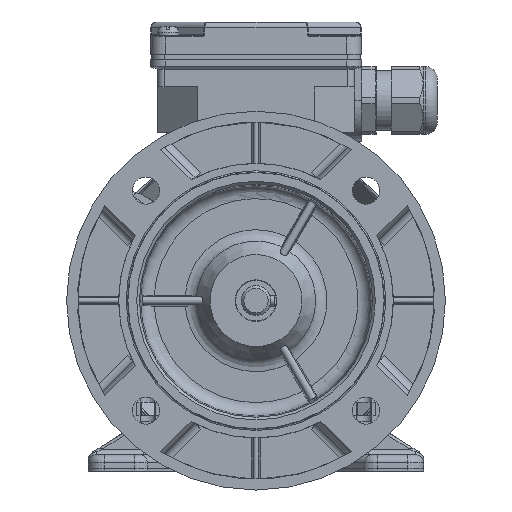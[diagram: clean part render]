
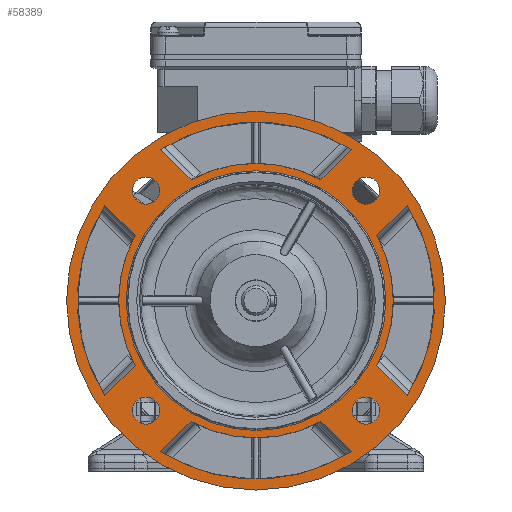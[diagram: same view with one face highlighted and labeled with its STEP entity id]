
A CAD part, left-side view. The second image highlights one B-rep face of the part: STEP entity #58389.
In plain terms, the highlighted planar face has unit normal (-1, 0, 0).
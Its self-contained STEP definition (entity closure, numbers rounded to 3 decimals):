
#3675=CIRCLE('',#61991,70.);
#3676=CIRCLE('',#61994,50.75);
#3677=CIRCLE('',#61997,66.);
#3678=CIRCLE('',#62000,50.75);
#3679=CIRCLE('',#62003,66.);
#3680=CIRCLE('',#62006,50.75);
#3681=CIRCLE('',#62009,66.);
#3682=CIRCLE('',#62012,66.);
#3683=CIRCLE('',#62015,50.75);
#3684=CIRCLE('',#62017,5.);
#3685=CIRCLE('',#62019,5.);
#3686=CIRCLE('',#62021,5.);
#3687=CIRCLE('',#62023,5.);
#3720=CIRCLE('',#62095,48.);
#13652=ORIENTED_EDGE('',*,*,#21418,.F.);
#13653=ORIENTED_EDGE('',*,*,#21417,.F.);
#13654=ORIENTED_EDGE('',*,*,#21416,.F.);
#13655=ORIENTED_EDGE('',*,*,#21415,.F.);
#13656=ORIENTED_EDGE('',*,*,#21414,.T.);
#13657=ORIENTED_EDGE('',*,*,#21413,.F.);
#13658=ORIENTED_EDGE('',*,*,#21410,.F.);
#13659=ORIENTED_EDGE('',*,*,#21409,.T.);
#13660=ORIENTED_EDGE('',*,*,#21406,.F.);
#13661=ORIENTED_EDGE('',*,*,#21405,.T.);
#13662=ORIENTED_EDGE('',*,*,#21402,.T.);
#13663=ORIENTED_EDGE('',*,*,#21400,.F.);
#13664=ORIENTED_EDGE('',*,*,#21398,.F.);
#13665=ORIENTED_EDGE('',*,*,#21397,.T.);
#13666=ORIENTED_EDGE('',*,*,#21394,.T.);
#13667=ORIENTED_EDGE('',*,*,#21392,.F.);
#13668=ORIENTED_EDGE('',*,*,#21390,.F.);
#13669=ORIENTED_EDGE('',*,*,#21389,.T.);
#13670=ORIENTED_EDGE('',*,*,#21386,.T.);
#13671=ORIENTED_EDGE('',*,*,#21384,.F.);
#13672=ORIENTED_EDGE('',*,*,#21382,.T.);
#13673=ORIENTED_EDGE('',*,*,#21498,.T.);
#21382=EDGE_CURVE('',#26058,#26058,#3675,.T.);
#21384=EDGE_CURVE('',#26059,#26060,#29927,.T.);
#21386=EDGE_CURVE('',#26061,#26060,#3676,.T.);
#21389=EDGE_CURVE('',#26062,#26061,#29928,.T.);
#21390=EDGE_CURVE('',#26062,#26059,#3677,.T.);
#21392=EDGE_CURVE('',#26063,#26064,#29929,.T.);
#21394=EDGE_CURVE('',#26065,#26064,#3678,.T.);
#21397=EDGE_CURVE('',#26066,#26065,#29930,.T.);
#21398=EDGE_CURVE('',#26066,#26063,#3679,.T.);
#21400=EDGE_CURVE('',#26067,#26068,#29931,.T.);
#21402=EDGE_CURVE('',#26069,#26068,#3680,.T.);
#21405=EDGE_CURVE('',#26070,#26069,#29932,.T.);
#21406=EDGE_CURVE('',#26070,#26067,#3681,.T.);
#21409=EDGE_CURVE('',#26071,#26072,#29933,.T.);
#21410=EDGE_CURVE('',#26071,#26073,#3682,.T.);
#21413=EDGE_CURVE('',#26073,#26074,#29934,.T.);
#21414=EDGE_CURVE('',#26072,#26074,#3683,.T.);
#21415=EDGE_CURVE('',#26075,#26075,#3684,.T.);
#21416=EDGE_CURVE('',#26076,#26076,#3685,.T.);
#21417=EDGE_CURVE('',#26077,#26077,#3686,.T.);
#21418=EDGE_CURVE('',#26078,#26078,#3687,.T.);
#21498=EDGE_CURVE('',#26141,#26141,#3720,.F.);
#26058=VERTEX_POINT('',#88461);
#26059=VERTEX_POINT('',#88467);
#26060=VERTEX_POINT('',#88469);
#26061=VERTEX_POINT('',#88476);
#26062=VERTEX_POINT('',#88486);
#26063=VERTEX_POINT('',#88495);
#26064=VERTEX_POINT('',#88497);
#26065=VERTEX_POINT('',#88504);
#26066=VERTEX_POINT('',#88514);
#26067=VERTEX_POINT('',#88523);
#26068=VERTEX_POINT('',#88525);
#26069=VERTEX_POINT('',#88532);
#26070=VERTEX_POINT('',#88542);
#26071=VERTEX_POINT('',#88551);
#26072=VERTEX_POINT('',#88556);
#26073=VERTEX_POINT('',#88560);
#26074=VERTEX_POINT('',#88570);
#26075=VERTEX_POINT('',#88576);
#26076=VERTEX_POINT('',#88579);
#26077=VERTEX_POINT('',#88582);
#26078=VERTEX_POINT('',#88585);
#26141=VERTEX_POINT('',#88767);
#29927=LINE('',#88468,#33181);
#29928=LINE('',#88487,#33182);
#29929=LINE('',#88496,#33183);
#29930=LINE('',#88515,#33184);
#29931=LINE('',#88524,#33185);
#29932=LINE('',#88543,#33186);
#29933=LINE('',#88557,#33187);
#29934=LINE('',#88571,#33188);
#33181=VECTOR('',#72001,1000.);
#33182=VECTOR('',#72008,1000.);
#33183=VECTOR('',#72015,1000.);
#33184=VECTOR('',#72022,1000.);
#33185=VECTOR('',#72029,1000.);
#33186=VECTOR('',#72036,1000.);
#33187=VECTOR('',#72043,1000.);
#33188=VECTOR('',#72050,1000.);
#35696=EDGE_LOOP('',(#13652));
#35697=EDGE_LOOP('',(#13653));
#35698=EDGE_LOOP('',(#13654));
#35699=EDGE_LOOP('',(#13655));
#35700=EDGE_LOOP('',(#13656,#13657,#13658,#13659));
#35701=EDGE_LOOP('',(#13660,#13661,#13662,#13663));
#35702=EDGE_LOOP('',(#13664,#13665,#13666,#13667));
#35703=EDGE_LOOP('',(#13668,#13669,#13670,#13671));
#35704=EDGE_LOOP('',(#13672));
#35705=EDGE_LOOP('',(#13673));
#38440=FACE_BOUND('',#35696,.T.);
#38441=FACE_BOUND('',#35697,.T.);
#38442=FACE_BOUND('',#35698,.T.);
#38443=FACE_BOUND('',#35699,.T.);
#38444=FACE_BOUND('',#35700,.T.);
#38445=FACE_BOUND('',#35701,.T.);
#38446=FACE_BOUND('',#35702,.T.);
#38447=FACE_BOUND('',#35703,.T.);
#38448=FACE_BOUND('',#35704,.T.);
#38449=FACE_BOUND('',#35705,.T.);
#40112=PLANE('',#62094);
#58389=ADVANCED_FACE('',(#38440,#38441,#38442,#38443,#38444,#38445,#38446,
#38447,#38448,#38449),#40112,.T.);
#61991=AXIS2_PLACEMENT_3D('',#88460,#71997,#71998);
#61994=AXIS2_PLACEMENT_3D('',#88475,#72004,#72005);
#61997=AXIS2_PLACEMENT_3D('',#88489,#72011,#72012);
#62000=AXIS2_PLACEMENT_3D('',#88503,#72018,#72019);
#62003=AXIS2_PLACEMENT_3D('',#88517,#72025,#72026);
#62006=AXIS2_PLACEMENT_3D('',#88531,#72032,#72033);
#62009=AXIS2_PLACEMENT_3D('',#88545,#72039,#72040);
#62012=AXIS2_PLACEMENT_3D('',#88559,#72046,#72047);
#62015=AXIS2_PLACEMENT_3D('',#88573,#72053,#72054);
#62017=AXIS2_PLACEMENT_3D('',#88575,#72057,#72058);
#62019=AXIS2_PLACEMENT_3D('',#88578,#72061,#72062);
#62021=AXIS2_PLACEMENT_3D('',#88581,#72065,#72066);
#62023=AXIS2_PLACEMENT_3D('',#88584,#72069,#72070);
#62094=AXIS2_PLACEMENT_3D('',#88765,#72258,#72259);
#62095=AXIS2_PLACEMENT_3D('',#88766,#72260,#72261);
#71997=DIRECTION('',(-1.,0.,0.));
#71998=DIRECTION('',(0.,-1.,0.));
#72001=DIRECTION('',(0.,0.707,0.707));
#72004=DIRECTION('',(-1.,0.,0.));
#72005=DIRECTION('',(0.,-1.,0.));
#72008=DIRECTION('',(0.,-0.707,0.707));
#72011=DIRECTION('',(-1.,0.,0.));
#72012=DIRECTION('',(0.,-1.,0.));
#72015=DIRECTION('',(0.,-0.707,0.707));
#72018=DIRECTION('',(-1.,0.,0.));
#72019=DIRECTION('',(0.,-1.,0.));
#72022=DIRECTION('',(0.,-0.707,-0.707));
#72025=DIRECTION('',(-1.,0.,0.));
#72026=DIRECTION('',(0.,-1.,0.));
#72029=DIRECTION('',(0.,-0.707,-0.707));
#72032=DIRECTION('',(-1.,0.,0.));
#72033=DIRECTION('',(0.,-1.,0.));
#72036=DIRECTION('',(0.,0.707,-0.707));
#72039=DIRECTION('',(-1.,0.,0.));
#72040=DIRECTION('',(0.,-1.,0.));
#72043=DIRECTION('',(0.,0.707,0.707));
#72046=DIRECTION('',(-1.,0.,0.));
#72047=DIRECTION('',(0.,-1.,0.));
#72050=DIRECTION('',(0.,0.707,-0.707));
#72053=DIRECTION('',(-1.,0.,0.));
#72054=DIRECTION('',(0.,-1.,0.));
#72057=DIRECTION('',(-1.,0.,0.));
#72058=DIRECTION('',(0.,-1.,0.));
#72061=DIRECTION('',(-1.,0.,0.));
#72062=DIRECTION('',(0.,0.,-1.));
#72065=DIRECTION('',(-1.,0.,0.));
#72066=DIRECTION('',(0.,1.,0.));
#72069=DIRECTION('',(-1.,0.,0.));
#72070=DIRECTION('',(0.,0.,1.));
#72258=DIRECTION('',(-1.,0.,0.));
#72259=DIRECTION('',(0.,-1.,0.));
#72260=DIRECTION('',(-1.,0.,0.));
#72261=DIRECTION('',(0.,-1.,0.));
#88460=CARTESIAN_POINT('',(-77.,0.,0.));
#88461=CARTESIAN_POINT('',(-77.,-70.,0.));
#88467=CARTESIAN_POINT('',(-77.,-35.168,-55.85));
#88468=CARTESIAN_POINT('',(-77.,-41.278,-61.959));
#88469=CARTESIAN_POINT('',(-77.,-24.023,-44.704));
#88475=CARTESIAN_POINT('',(-77.,0.,0.));
#88476=CARTESIAN_POINT('',(-77.,24.023,-44.704));
#88486=CARTESIAN_POINT('',(-77.,35.168,-55.85));
#88487=CARTESIAN_POINT('',(-77.,41.278,-61.959));
#88489=CARTESIAN_POINT('',(-77.,0.,0.));
#88495=CARTESIAN_POINT('',(-77.,55.85,-35.168));
#88496=CARTESIAN_POINT('',(-77.,61.959,-41.278));
#88497=CARTESIAN_POINT('',(-77.,44.704,-24.023));
#88503=CARTESIAN_POINT('',(-77.,0.,0.));
#88504=CARTESIAN_POINT('',(-77.,44.704,24.023));
#88514=CARTESIAN_POINT('',(-77.,55.85,35.168));
#88515=CARTESIAN_POINT('',(-77.,61.959,41.278));
#88517=CARTESIAN_POINT('',(-77.,0.,0.));
#88523=CARTESIAN_POINT('',(-77.,35.168,55.85));
#88524=CARTESIAN_POINT('',(-77.,41.278,61.959));
#88525=CARTESIAN_POINT('',(-77.,24.023,44.704));
#88531=CARTESIAN_POINT('',(-77.,0.,0.));
#88532=CARTESIAN_POINT('',(-77.,-24.023,44.704));
#88542=CARTESIAN_POINT('',(-77.,-35.168,55.85));
#88543=CARTESIAN_POINT('',(-77.,-41.278,61.959));
#88545=CARTESIAN_POINT('',(-77.,0.,0.));
#88551=CARTESIAN_POINT('',(-77.,-55.85,-35.168));
#88556=CARTESIAN_POINT('',(-77.,-44.704,-24.023));
#88557=CARTESIAN_POINT('',(-77.,-61.959,-41.278));
#88559=CARTESIAN_POINT('',(-77.,0.,0.));
#88560=CARTESIAN_POINT('',(-77.,-55.85,35.168));
#88570=CARTESIAN_POINT('',(-77.,-44.704,24.023));
#88571=CARTESIAN_POINT('',(-77.,-61.959,41.278));
#88573=CARTESIAN_POINT('',(-77.,0.,0.));
#88575=CARTESIAN_POINT('',(-77.,-40.659,40.659));
#88576=CARTESIAN_POINT('',(-77.,-45.659,40.659));
#88578=CARTESIAN_POINT('',(-77.,-40.659,-40.659));
#88579=CARTESIAN_POINT('',(-77.,-40.659,-45.659));
#88581=CARTESIAN_POINT('',(-77.,40.659,-40.659));
#88582=CARTESIAN_POINT('',(-77.,45.659,-40.659));
#88584=CARTESIAN_POINT('',(-77.,40.659,40.659));
#88585=CARTESIAN_POINT('',(-77.,40.659,45.659));
#88765=CARTESIAN_POINT('',(-77.,47.5,0.));
#88766=CARTESIAN_POINT('',(-77.,0.,0.));
#88767=CARTESIAN_POINT('',(-77.,-48.,0.));
